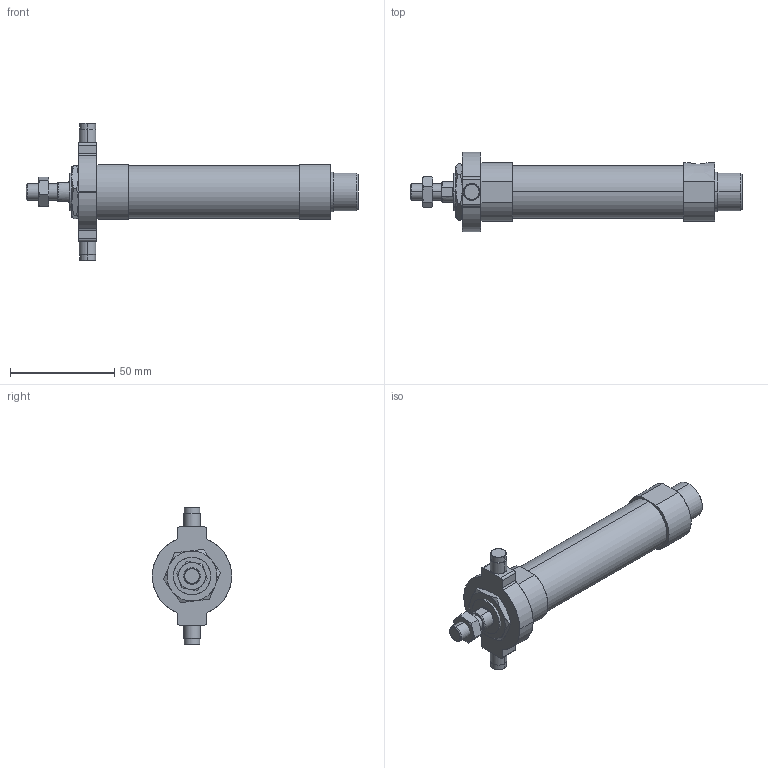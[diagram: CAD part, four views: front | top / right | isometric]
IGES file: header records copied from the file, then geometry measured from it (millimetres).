
Start section: SolidWorks IGES file using analytic representation for surfaces
Global section: file name: C:\Users\Toshiba\Desktop\J#1-20-15(25)-T.IGS; native system: SolidWorks 2014; preprocessor: SolidWorks 2014; author: Toshiba; date: 160308.144219; units: millimetre
Bounding box: 159 x 38 x 66 mm (x, y, z)
Surface area: 18564.2 mm2 (no closed solid volume)
Topology: 0 solids, 0 shells, 128 faces, 2018 edges, 2018 vertices
Faces by surface type: bspline 69, revolution 59
